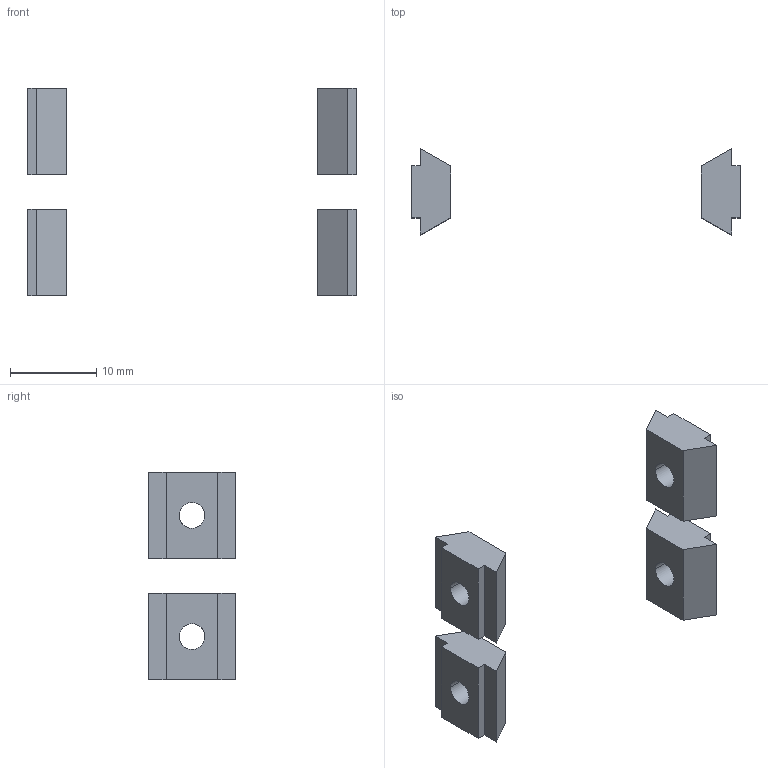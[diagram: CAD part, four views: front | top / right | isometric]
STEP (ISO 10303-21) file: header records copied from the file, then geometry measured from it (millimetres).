
FILE_DESCRIPTION(/* description */ (''),/* implementation_level */ '2;1');
FILE_NAME(/* name */ 'X-82AF~1',/* time_stamp */ '2014-02-14T19:44:33+01:00',/* author */ (''),/* organization */ (''),/* preprocessor_version */ 'ST-DEVELOPER v14',/* originating_system */ '',/* authorisation */ '');
FILE_SCHEMA (('AUTOMOTIVE_DESIGN'));
Length unit declared in the file: millimetre
Products named in the file (2): Document; tslot nut, pre, M3
Assembly tree (2 placements, depth 2):
  Document
    tslot nut, pre, M3  x2
Bounding box: 38 x 10 x 24.02 mm (x, y, z)
Volume: 1232.6 mm3; surface area: 1427.5 mm2
Topology: 4 solids, 4 shells, 48 faces, 120 edges, 80 vertices
Faces by surface type: plane 40, bspline 8
Entity records: 2244 total; most frequent: CARTESIAN_POINT 911, B_SPLINE_CURVE_WITH_KNOTS 252, ORIENTED_EDGE 180, PCURVE 180, DEFINITIONAL_REPRESENTATION 180, SURFACE_CURVE 90, EDGE_CURVE 90, VERTEX_POINT 60
